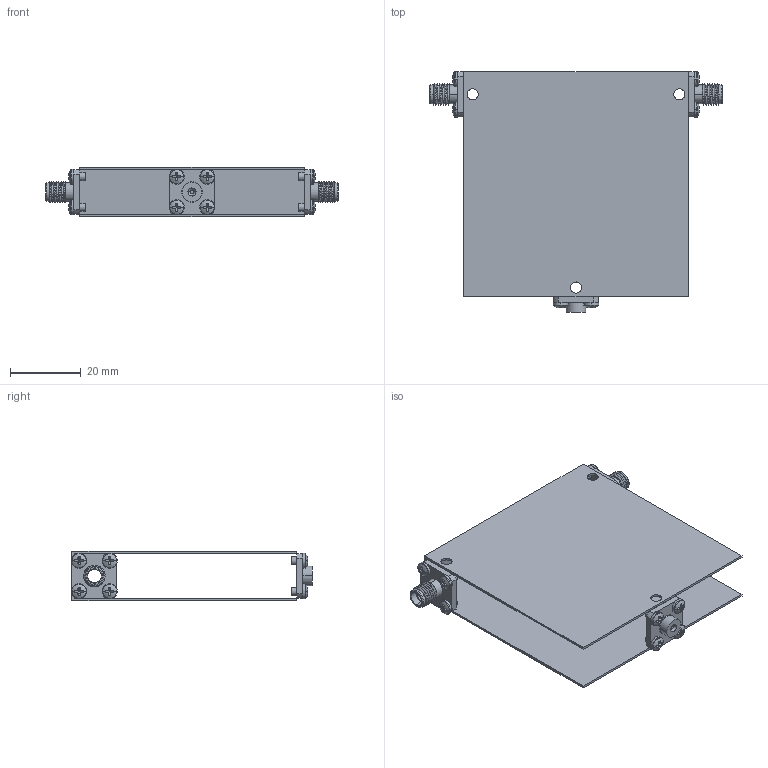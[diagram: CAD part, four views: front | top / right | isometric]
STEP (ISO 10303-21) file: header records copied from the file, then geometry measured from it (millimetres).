
FILE_DESCRIPTION (( 'STEP AP214' ), '1' );
FILE_NAME ('D3I1525 2.5x2.5x0.55 FF.step', '2021-12-01T20:55:49', ( '' ), ( '' ), 'SwSTEP 2.0', 'SolidWorks 2016', '' );
FILE_SCHEMA (( 'AUTOMOTIVE_DESIGN' ));
Length unit declared in the file: inch
Products named in the file (5): pan cross head_ai_CR-PHMS 0.086-56x0.125x0.125-N; D3I1525 2.5x2.5x0.55; 030013-1A Same Base thickness as connectors; Delta SMA-Female 0.500 flange Threaded; D3I1525 2.5x2.5x0.55 FF
Assembly tree (16 placements, depth 2):
  D3I1525 2.5x2.5x0.55 FF
    D3I1525 2.5x2.5x0.55
    Delta SMA-Female 0.500 flange Threaded  x2
    030013-1A Same Base thickness as connectors
    pan cross head_ai_CR-PHMS 0.086-56x0.125x0.125-N  x12
Bounding box: 82.55 x 68.03 x 13.97 mm (x, y, z)
Volume: 6792.7 mm3; surface area: 20609.3 mm2
Topology: 16 solids, 16 shells, 408 faces, 930 edges, 574 vertices
Faces by surface type: plane 222, cylinder 122, torus 30, sphere 24, bspline 6, cone 4
Entity records: 4563 total; most frequent: CARTESIAN_POINT 1342, DIRECTION 691, ORIENTED_EDGE 570, EDGE_CURVE 285, AXIS2_PLACEMENT_3D 282, VERTEX_POINT 183, EDGE_LOOP 154, CIRCLE 150
